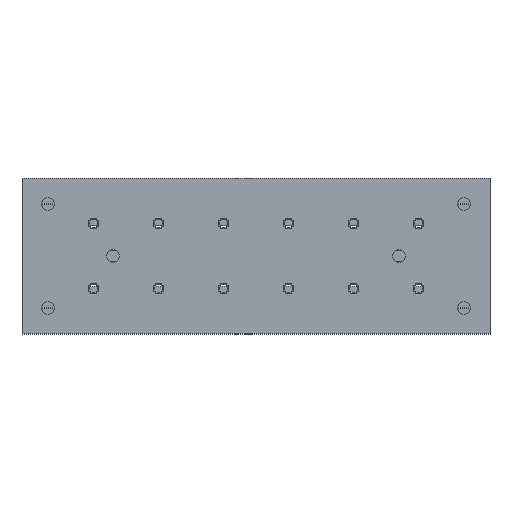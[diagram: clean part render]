
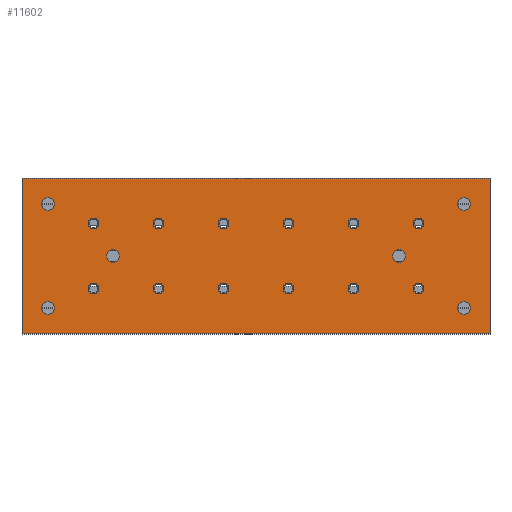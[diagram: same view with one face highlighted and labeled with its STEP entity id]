
A CAD part, front view. The second image highlights one B-rep face of the part: STEP entity #11602.
In plain terms, the highlighted planar face has unit normal (0, -1, 0).
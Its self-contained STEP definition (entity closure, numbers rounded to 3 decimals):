
#406=CIRCLE('',#12302,2.);
#407=CIRCLE('',#12303,2.);
#408=CIRCLE('',#12304,2.);
#409=CIRCLE('',#12305,2.);
#410=CIRCLE('',#12306,2.);
#411=CIRCLE('',#12307,2.);
#412=CIRCLE('',#12308,2.);
#413=CIRCLE('',#12309,2.);
#414=CIRCLE('',#12310,2.);
#415=CIRCLE('',#12311,2.);
#416=CIRCLE('',#12312,2.);
#417=CIRCLE('',#12313,2.);
#418=CIRCLE('',#12314,2.4);
#419=CIRCLE('',#12315,2.4);
#420=CIRCLE('',#12316,2.4);
#421=CIRCLE('',#12317,2.4);
#422=CIRCLE('',#12318,2.4);
#423=CIRCLE('',#12319,2.4);
#1206=ORIENTED_EDGE('',*,*,#4699,.F.);
#1207=ORIENTED_EDGE('',*,*,#4700,.F.);
#1208=ORIENTED_EDGE('',*,*,#4701,.F.);
#1209=ORIENTED_EDGE('',*,*,#4702,.F.);
#1210=ORIENTED_EDGE('',*,*,#4703,.F.);
#1211=ORIENTED_EDGE('',*,*,#4704,.F.);
#1212=ORIENTED_EDGE('',*,*,#4705,.F.);
#1213=ORIENTED_EDGE('',*,*,#4706,.F.);
#1214=ORIENTED_EDGE('',*,*,#4707,.F.);
#1215=ORIENTED_EDGE('',*,*,#4708,.F.);
#1216=ORIENTED_EDGE('',*,*,#4709,.F.);
#1217=ORIENTED_EDGE('',*,*,#4710,.F.);
#1218=ORIENTED_EDGE('',*,*,#4711,.F.);
#1219=ORIENTED_EDGE('',*,*,#4712,.F.);
#1220=ORIENTED_EDGE('',*,*,#4713,.T.);
#1221=ORIENTED_EDGE('',*,*,#4714,.F.);
#1222=ORIENTED_EDGE('',*,*,#4715,.F.);
#1223=ORIENTED_EDGE('',*,*,#4716,.F.);
#1224=ORIENTED_EDGE('',*,*,#4673,.T.);
#1225=ORIENTED_EDGE('',*,*,#4717,.F.);
#1226=ORIENTED_EDGE('',*,*,#4718,.F.);
#1227=ORIENTED_EDGE('',*,*,#4697,.T.);
#4673=EDGE_CURVE('',#6422,#6421,#7609,.T.);
#4697=EDGE_CURVE('',#6444,#6422,#7633,.T.);
#4699=EDGE_CURVE('',#6445,#6445,#406,.T.);
#4700=EDGE_CURVE('',#6446,#6446,#407,.T.);
#4701=EDGE_CURVE('',#6447,#6447,#408,.T.);
#4702=EDGE_CURVE('',#6448,#6448,#409,.T.);
#4703=EDGE_CURVE('',#6449,#6449,#410,.T.);
#4704=EDGE_CURVE('',#6450,#6450,#411,.T.);
#4705=EDGE_CURVE('',#6451,#6451,#412,.T.);
#4706=EDGE_CURVE('',#6452,#6452,#413,.T.);
#4707=EDGE_CURVE('',#6453,#6453,#414,.T.);
#4708=EDGE_CURVE('',#6454,#6454,#415,.T.);
#4709=EDGE_CURVE('',#6455,#6455,#416,.T.);
#4710=EDGE_CURVE('',#6456,#6456,#417,.T.);
#4711=EDGE_CURVE('',#6457,#6457,#418,.T.);
#4712=EDGE_CURVE('',#6458,#6458,#419,.T.);
#4713=EDGE_CURVE('',#6459,#6459,#420,.T.);
#4714=EDGE_CURVE('',#6460,#6460,#421,.T.);
#4715=EDGE_CURVE('',#6461,#6461,#422,.T.);
#4716=EDGE_CURVE('',#6462,#6462,#423,.T.);
#4717=EDGE_CURVE('',#6463,#6421,#7635,.T.);
#4718=EDGE_CURVE('',#6444,#6463,#7636,.T.);
#6421=VERTEX_POINT('',#17616);
#6422=VERTEX_POINT('',#17618);
#6444=VERTEX_POINT('',#17667);
#6445=VERTEX_POINT('',#17671);
#6446=VERTEX_POINT('',#17673);
#6447=VERTEX_POINT('',#17675);
#6448=VERTEX_POINT('',#17677);
#6449=VERTEX_POINT('',#17679);
#6450=VERTEX_POINT('',#17681);
#6451=VERTEX_POINT('',#17683);
#6452=VERTEX_POINT('',#17685);
#6453=VERTEX_POINT('',#17687);
#6454=VERTEX_POINT('',#17689);
#6455=VERTEX_POINT('',#17691);
#6456=VERTEX_POINT('',#17693);
#6457=VERTEX_POINT('',#17695);
#6458=VERTEX_POINT('',#17697);
#6459=VERTEX_POINT('',#17699);
#6460=VERTEX_POINT('',#17701);
#6461=VERTEX_POINT('',#17703);
#6462=VERTEX_POINT('',#17705);
#6463=VERTEX_POINT('',#17707);
#7609=LINE('',#17617,#8641);
#7633=LINE('',#17666,#8665);
#7635=LINE('',#17706,#8667);
#7636=LINE('',#17708,#8668);
#8641=VECTOR('',#13754,1000.);
#8665=VECTOR('',#13784,1000.);
#8667=VECTOR('',#13824,1000.);
#8668=VECTOR('',#13825,1000.);
#9629=EDGE_LOOP('',(#1206));
#9630=EDGE_LOOP('',(#1207));
#9631=EDGE_LOOP('',(#1208));
#9632=EDGE_LOOP('',(#1209));
#9633=EDGE_LOOP('',(#1210));
#9634=EDGE_LOOP('',(#1211));
#9635=EDGE_LOOP('',(#1212));
#9636=EDGE_LOOP('',(#1213));
#9637=EDGE_LOOP('',(#1214));
#9638=EDGE_LOOP('',(#1215));
#9639=EDGE_LOOP('',(#1216));
#9640=EDGE_LOOP('',(#1217));
#9641=EDGE_LOOP('',(#1218));
#9642=EDGE_LOOP('',(#1219));
#9643=EDGE_LOOP('',(#1220));
#9644=EDGE_LOOP('',(#1221));
#9645=EDGE_LOOP('',(#1222));
#9646=EDGE_LOOP('',(#1223));
#9647=EDGE_LOOP('',(#1224,#1225,#1226,#1227));
#10467=FACE_BOUND('',#9629,.T.);
#10468=FACE_BOUND('',#9630,.T.);
#10469=FACE_BOUND('',#9631,.T.);
#10470=FACE_BOUND('',#9632,.T.);
#10471=FACE_BOUND('',#9633,.T.);
#10472=FACE_BOUND('',#9634,.T.);
#10473=FACE_BOUND('',#9635,.T.);
#10474=FACE_BOUND('',#9636,.T.);
#10475=FACE_BOUND('',#9637,.T.);
#10476=FACE_BOUND('',#9638,.T.);
#10477=FACE_BOUND('',#9639,.T.);
#10478=FACE_BOUND('',#9640,.T.);
#10479=FACE_BOUND('',#9641,.T.);
#10480=FACE_BOUND('',#9642,.T.);
#10481=FACE_BOUND('',#9643,.T.);
#10482=FACE_BOUND('',#9644,.T.);
#10483=FACE_BOUND('',#9645,.T.);
#10484=FACE_BOUND('',#9646,.T.);
#10485=FACE_BOUND('',#9647,.T.);
#11305=PLANE('',#12301);
#11602=ADVANCED_FACE('',(#10467,#10468,#10469,#10470,#10471,#10472,#10473,
#10474,#10475,#10476,#10477,#10478,#10479,#10480,#10481,#10482,#10483,#10484,
#10485),#11305,.F.);
#12301=AXIS2_PLACEMENT_3D('',#17669,#13786,#13787);
#12302=AXIS2_PLACEMENT_3D('',#17670,#13788,#13789);
#12303=AXIS2_PLACEMENT_3D('',#17672,#13790,#13791);
#12304=AXIS2_PLACEMENT_3D('',#17674,#13792,#13793);
#12305=AXIS2_PLACEMENT_3D('',#17676,#13794,#13795);
#12306=AXIS2_PLACEMENT_3D('',#17678,#13796,#13797);
#12307=AXIS2_PLACEMENT_3D('',#17680,#13798,#13799);
#12308=AXIS2_PLACEMENT_3D('',#17682,#13800,#13801);
#12309=AXIS2_PLACEMENT_3D('',#17684,#13802,#13803);
#12310=AXIS2_PLACEMENT_3D('',#17686,#13804,#13805);
#12311=AXIS2_PLACEMENT_3D('',#17688,#13806,#13807);
#12312=AXIS2_PLACEMENT_3D('',#17690,#13808,#13809);
#12313=AXIS2_PLACEMENT_3D('',#17692,#13810,#13811);
#12314=AXIS2_PLACEMENT_3D('',#17694,#13812,#13813);
#12315=AXIS2_PLACEMENT_3D('',#17696,#13814,#13815);
#12316=AXIS2_PLACEMENT_3D('',#17698,#13816,#13817);
#12317=AXIS2_PLACEMENT_3D('',#17700,#13818,#13819);
#12318=AXIS2_PLACEMENT_3D('',#17702,#13820,#13821);
#12319=AXIS2_PLACEMENT_3D('',#17704,#13822,#13823);
#13754=DIRECTION('',(0.,0.,-1.));
#13784=DIRECTION('',(-1.,0.,0.));
#13786=DIRECTION('',(0.,1.,0.));
#13787=DIRECTION('',(0.,0.,1.));
#13788=DIRECTION('',(0.,-1.,0.));
#13789=DIRECTION('',(0.,0.,-1.));
#13790=DIRECTION('',(0.,-1.,0.));
#13791=DIRECTION('',(0.,0.,-1.));
#13792=DIRECTION('',(0.,-1.,0.));
#13793=DIRECTION('',(0.,0.,-1.));
#13794=DIRECTION('',(0.,-1.,0.));
#13795=DIRECTION('',(0.,0.,-1.));
#13796=DIRECTION('',(0.,-1.,0.));
#13797=DIRECTION('',(0.,0.,-1.));
#13798=DIRECTION('',(0.,-1.,0.));
#13799=DIRECTION('',(0.,0.,-1.));
#13800=DIRECTION('',(0.,-1.,0.));
#13801=DIRECTION('',(0.,0.,-1.));
#13802=DIRECTION('',(0.,-1.,0.));
#13803=DIRECTION('',(0.,0.,-1.));
#13804=DIRECTION('',(0.,-1.,0.));
#13805=DIRECTION('',(0.,0.,-1.));
#13806=DIRECTION('',(0.,-1.,0.));
#13807=DIRECTION('',(0.,0.,-1.));
#13808=DIRECTION('',(0.,-1.,0.));
#13809=DIRECTION('',(0.,0.,-1.));
#13810=DIRECTION('',(0.,-1.,0.));
#13811=DIRECTION('',(0.,0.,-1.));
#13812=DIRECTION('',(0.,-1.,0.));
#13813=DIRECTION('',(0.,0.,-1.));
#13814=DIRECTION('',(0.,-1.,0.));
#13815=DIRECTION('',(0.,0.,-1.));
#13816=DIRECTION('',(0.,1.,0.));
#13817=DIRECTION('',(0.,0.,1.));
#13818=DIRECTION('',(0.,-1.,0.));
#13819=DIRECTION('',(0.,0.,-1.));
#13820=DIRECTION('',(0.,-1.,0.));
#13821=DIRECTION('',(0.,0.,-1.));
#13822=DIRECTION('',(0.,-1.,0.));
#13823=DIRECTION('',(0.,0.,-1.));
#13824=DIRECTION('',(-1.,0.,0.));
#13825=DIRECTION('',(0.,0.,-1.));
#17616=CARTESIAN_POINT('',(0.,0.,-29.85));
#17617=CARTESIAN_POINT('',(0.,0.,29.85));
#17618=CARTESIAN_POINT('',(0.,0.,29.85));
#17666=CARTESIAN_POINT('',(180.,0.,29.85));
#17667=CARTESIAN_POINT('',(180.,0.,29.85));
#17669=CARTESIAN_POINT('',(180.,0.,29.85));
#17670=CARTESIAN_POINT('',(152.5,0.,-12.5));
#17671=CARTESIAN_POINT('',(152.5,0.,-14.5));
#17672=CARTESIAN_POINT('',(152.5,0.,12.5));
#17673=CARTESIAN_POINT('',(152.5,0.,10.5));
#17674=CARTESIAN_POINT('',(27.5,0.,-12.5));
#17675=CARTESIAN_POINT('',(27.5,0.,-14.5));
#17676=CARTESIAN_POINT('',(27.5,0.,12.5));
#17677=CARTESIAN_POINT('',(27.5,0.,10.5));
#17678=CARTESIAN_POINT('',(52.5,0.,-12.5));
#17679=CARTESIAN_POINT('',(52.5,0.,-14.5));
#17680=CARTESIAN_POINT('',(52.5,0.,12.5));
#17681=CARTESIAN_POINT('',(52.5,0.,10.5));
#17682=CARTESIAN_POINT('',(127.5,0.,-12.5));
#17683=CARTESIAN_POINT('',(127.5,0.,-14.5));
#17684=CARTESIAN_POINT('',(127.5,0.,12.5));
#17685=CARTESIAN_POINT('',(127.5,0.,10.5));
#17686=CARTESIAN_POINT('',(102.5,0.,-12.5));
#17687=CARTESIAN_POINT('',(102.5,0.,-14.5));
#17688=CARTESIAN_POINT('',(102.5,0.,12.5));
#17689=CARTESIAN_POINT('',(102.5,0.,10.5));
#17690=CARTESIAN_POINT('',(77.5,0.,-12.5));
#17691=CARTESIAN_POINT('',(77.5,0.,-14.5));
#17692=CARTESIAN_POINT('',(77.5,0.,12.5));
#17693=CARTESIAN_POINT('',(77.5,0.,10.5));
#17694=CARTESIAN_POINT('',(145.,0.,0.));
#17695=CARTESIAN_POINT('',(145.,0.,-2.4));
#17696=CARTESIAN_POINT('',(35.,0.,0.));
#17697=CARTESIAN_POINT('',(35.,0.,-2.4));
#17698=CARTESIAN_POINT('',(170.,0.,20.));
#17699=CARTESIAN_POINT('',(170.,0.,22.4));
#17700=CARTESIAN_POINT('',(170.,0.,-20.));
#17701=CARTESIAN_POINT('',(170.,0.,-22.4));
#17702=CARTESIAN_POINT('',(10.,0.,-20.));
#17703=CARTESIAN_POINT('',(10.,0.,-22.4));
#17704=CARTESIAN_POINT('',(10.,0.,20.));
#17705=CARTESIAN_POINT('',(10.,0.,17.6));
#17706=CARTESIAN_POINT('',(180.,0.,-29.85));
#17707=CARTESIAN_POINT('',(180.,0.,-29.85));
#17708=CARTESIAN_POINT('',(180.,0.,29.85));
